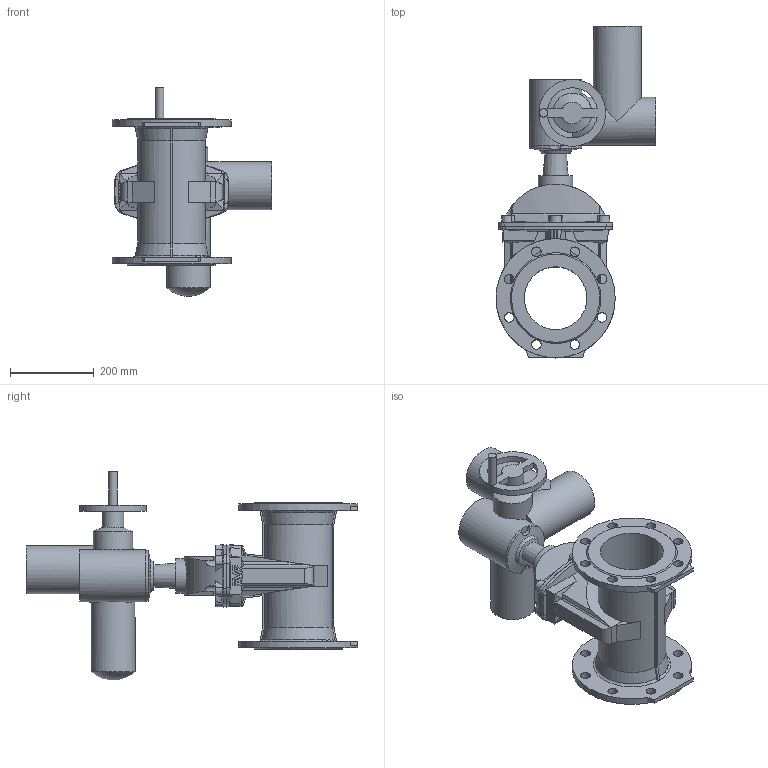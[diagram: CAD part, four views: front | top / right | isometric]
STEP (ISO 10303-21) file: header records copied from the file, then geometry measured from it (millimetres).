
FILE_DESCRIPTION (( 'STEP AP203' ), '1' );
FILE_NAME ('O_15_72_DN150_X1XXX099_SA07.6_AA0.step', '2017-03-20T12:53:37', ( 'Windows User' ), ( 'AVK' ), 'SwSTEP 2.0', 'SolidWorks 2012', '' );
FILE_SCHEMA (( 'CONFIG_CONTROL_DESIGN' ));
Length unit declared in the file: inch
Products named in the file (1): O_15_72_DN150_X1XXX099_SA07.6_AA0
Bounding box: 382.5 x 793.5 x 498.55 mm (x, y, z)
Volume: 15654432.5 mm3; surface area: 1071540.1 mm2
Topology: 1 solids, 1 shells, 352 faces, 1020 edges, 663 vertices
Faces by surface type: plane 182, cylinder 101, cone 60, bspline 4, sphere 3, torus 2
Full cylindrical faces by diameter (mm): 20 x1, 23 x16, 52.112 x1, 82.4 x1, 93.905 x1, 105 x1, 115 x2, 125 x1, 150 x1, 160 x1, 285 x2
Entity records: 12723 total; most frequent: CARTESIAN_POINT 3950, ORIENTED_EDGE 1892, DIRECTION 1704, EDGE_CURVE 946, VERTEX_POINT 628, AXIS2_PLACEMENT_3D 610, LINE 484, VECTOR 484
